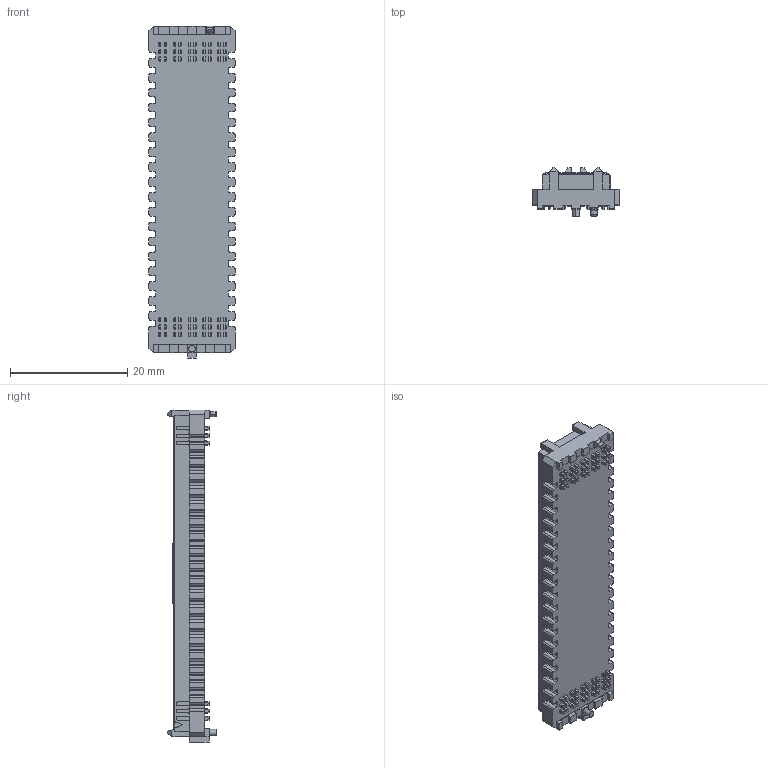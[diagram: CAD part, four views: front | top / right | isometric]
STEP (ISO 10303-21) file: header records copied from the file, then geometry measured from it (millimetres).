
FILE_DESCRIPTION (( 'STEP AP203' ), '1' );
FILE_NAME ('ASP-134488-01.step', '2017-09-26T19:35:21', ( '' ), ( '' ), 'SwSTEP 2.0', 'SolidWorks 2016', '' );
FILE_SCHEMA (( 'CONFIG_CONTROL_DESIGN' ));
Products named in the file (1): ASP-134488-01
Bounding box: 14.68 x 8.38 x 56.67 mm (x, y, z)
Volume: 3073.4 mm3; surface area: 3909.4 mm2
Topology: 2 solids, 2 shells, 2627 faces, 7510 edges, 4952 vertices
Faces by surface type: plane 1319, cylinder 1056, bspline 252
Entity records: 88948 total; most frequent: CARTESIAN_POINT 21177, ORIENTED_EDGE 15020, DIRECTION 13224, EDGE_CURVE 7510, VERTEX_POINT 4952, VECTOR 4588, LINE 4588, AXIS2_PLACEMENT_3D 4318
